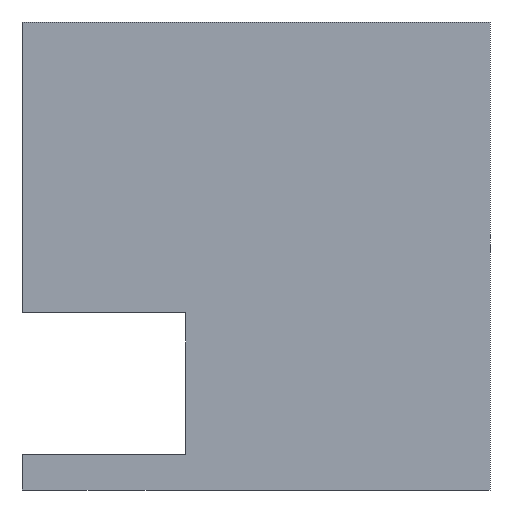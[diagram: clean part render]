
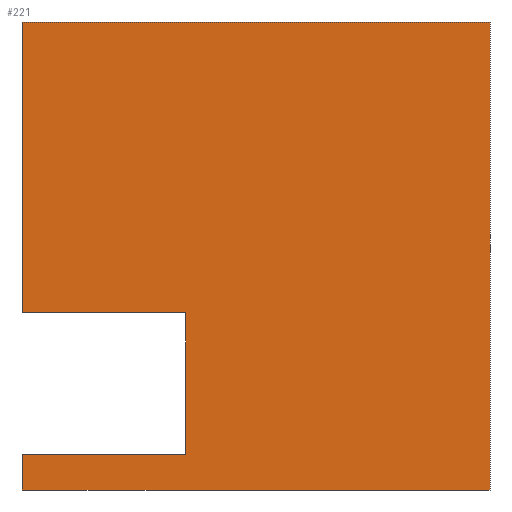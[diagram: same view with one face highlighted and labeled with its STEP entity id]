
A CAD part, front view. The second image highlights one B-rep face of the part: STEP entity #221.
In plain terms, the highlighted planar face has unit normal (0, -1, 0).
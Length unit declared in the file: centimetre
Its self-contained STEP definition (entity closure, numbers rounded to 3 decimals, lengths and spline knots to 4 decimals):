
#23 = ORIENTED_EDGE ( 'NONE', *, *, #210, .T. ) ;
#24 = DIRECTION ( 'NONE',  ( 0., 0., -1. ) ) ;
#35 = CARTESIAN_POINT ( 'NONE',  ( 349.9427, 0., 76.2645 ) ) ;
#37 = LINE ( 'NONE', #339, #244 ) ;
#40 = VECTOR ( 'NONE', #24, 100. ) ;
#53 = DIRECTION ( 'NONE',  ( 0., 0., -1. ) ) ;
#58 = EDGE_CURVE ( 'NONE', #414, #186, #628, .T. ) ;
#60 = ORIENTED_EDGE ( 'NONE', *, *, #357, .F. ) ;
#74 = DIRECTION ( 'NONE',  ( 1., 0., 0. ) ) ;
#99 = EDGE_CURVE ( 'NONE', #440, #517, #381, .T. ) ;
#109 = EDGE_LOOP ( 'NONE', ( #582, #235, #542, #133, #23, #288, #617, #60 ) ) ;
#131 = CARTESIAN_POINT ( 'NONE',  ( 0., 0., 76.2645 ) ) ;
#133 = ORIENTED_EDGE ( 'NONE', *, *, #511, .F. ) ;
#136 = CARTESIAN_POINT ( 'NONE',  ( 0., 0., 1000. ) ) ;
#140 = CARTESIAN_POINT ( 'NONE',  ( 349.9427, 0., 76.2645 ) ) ;
#172 = DIRECTION ( 'NONE',  ( -1., 0., 0. ) ) ;
#186 = VERTEX_POINT ( 'NONE', #213 ) ;
#188 = DIRECTION ( 'NONE',  ( 1., 0., 0. ) ) ;
#189 = EDGE_CURVE ( 'NONE', #326, #517, #622, .T. ) ;
#210 = EDGE_CURVE ( 'NONE', #375, #414, #592, .T. ) ;
#213 = CARTESIAN_POINT ( 'NONE',  ( 1000., 0., 0. ) ) ;
#221 = ADVANCED_FACE ( 'NONE', ( #648 ), #548, .F. ) ;
#235 = ORIENTED_EDGE ( 'NONE', *, *, #99, .F. ) ;
#238 = CARTESIAN_POINT ( 'NONE',  ( 1000., 0., 1000. ) ) ;
#244 = VECTOR ( 'NONE', #74, 100. ) ;
#250 = VERTEX_POINT ( 'NONE', #509 ) ;
#284 = CARTESIAN_POINT ( 'NONE',  ( 0., 0., 1000. ) ) ;
#288 = ORIENTED_EDGE ( 'NONE', *, *, #58, .T. ) ;
#290 = DIRECTION ( 'NONE',  ( 0., 0., 1. ) ) ;
#293 = CARTESIAN_POINT ( 'NONE',  ( 349.9427, 0., 378.3726 ) ) ;
#298 = VECTOR ( 'NONE', #188, 100. ) ;
#326 = VERTEX_POINT ( 'NONE', #136 ) ;
#336 = VERTEX_POINT ( 'NONE', #140 ) ;
#339 = CARTESIAN_POINT ( 'NONE',  ( 0., 0., 1000. ) ) ;
#346 = CARTESIAN_POINT ( 'NONE',  ( 0., 0., 0. ) ) ;
#357 = EDGE_CURVE ( 'NONE', #326, #250, #37, .T. ) ;
#364 = EDGE_CURVE ( 'NONE', #250, #186, #392, .T. ) ;
#375 = VERTEX_POINT ( 'NONE', #131 ) ;
#378 = CARTESIAN_POINT ( 'NONE',  ( 0., 0., 0. ) ) ;
#381 = LINE ( 'NONE', #581, #418 ) ;
#392 = LINE ( 'NONE', #238, #513 ) ;
#400 = DIRECTION ( 'NONE',  ( 0., 0., 1. ) ) ;
#403 = EDGE_CURVE ( 'NONE', #336, #440, #460, .T. ) ;
#409 = VECTOR ( 'NONE', #400, 100. ) ;
#414 = VERTEX_POINT ( 'NONE', #346 ) ;
#418 = VECTOR ( 'NONE', #172, 100. ) ;
#440 = VERTEX_POINT ( 'NONE', #293 ) ;
#460 = LINE ( 'NONE', #35, #409 ) ;
#486 = DIRECTION ( 'NONE',  ( 1., 0., 0. ) ) ;
#496 = CARTESIAN_POINT ( 'NONE',  ( 0., 0., 76.2645 ) ) ;
#508 = LINE ( 'NONE', #496, #298 ) ;
#509 = CARTESIAN_POINT ( 'NONE',  ( 1000., 0., 1000. ) ) ;
#511 = EDGE_CURVE ( 'NONE', #375, #336, #508, .T. ) ;
#513 = VECTOR ( 'NONE', #551, 100. ) ;
#517 = VERTEX_POINT ( 'NONE', #666 ) ;
#522 = CARTESIAN_POINT ( 'NONE',  ( 0., 0., 1000. ) ) ;
#542 = ORIENTED_EDGE ( 'NONE', *, *, #403, .F. ) ;
#547 = VECTOR ( 'NONE', #486, 100. ) ;
#548 = PLANE ( 'NONE',  #555 ) ;
#551 = DIRECTION ( 'NONE',  ( 0., 0., -1. ) ) ;
#555 = AXIS2_PLACEMENT_3D ( 'NONE', #642, #651, #290 ) ;
#581 = CARTESIAN_POINT ( 'NONE',  ( 0., 0., 378.3726 ) ) ;
#582 = ORIENTED_EDGE ( 'NONE', *, *, #189, .T. ) ;
#592 = LINE ( 'NONE', #284, #40 ) ;
#617 = ORIENTED_EDGE ( 'NONE', *, *, #364, .F. ) ;
#622 = LINE ( 'NONE', #522, #655 ) ;
#628 = LINE ( 'NONE', #378, #547 ) ;
#642 = CARTESIAN_POINT ( 'NONE',  ( 0., 0., 1000. ) ) ;
#648 = FACE_OUTER_BOUND ( 'NONE', #109, .T. ) ;
#651 = DIRECTION ( 'NONE',  ( 0., 1., 0. ) ) ;
#655 = VECTOR ( 'NONE', #53, 100. ) ;
#666 = CARTESIAN_POINT ( 'NONE',  ( 0., 0., 378.3726 ) ) ;
